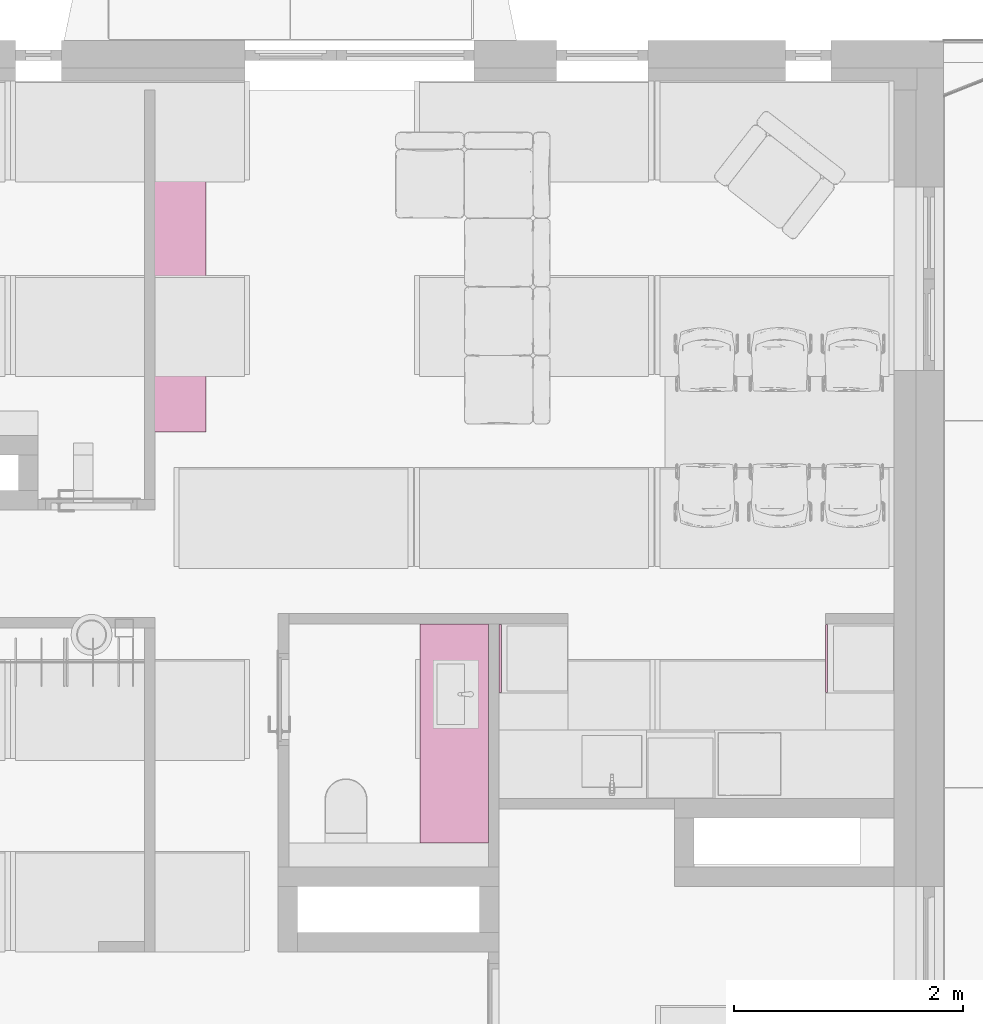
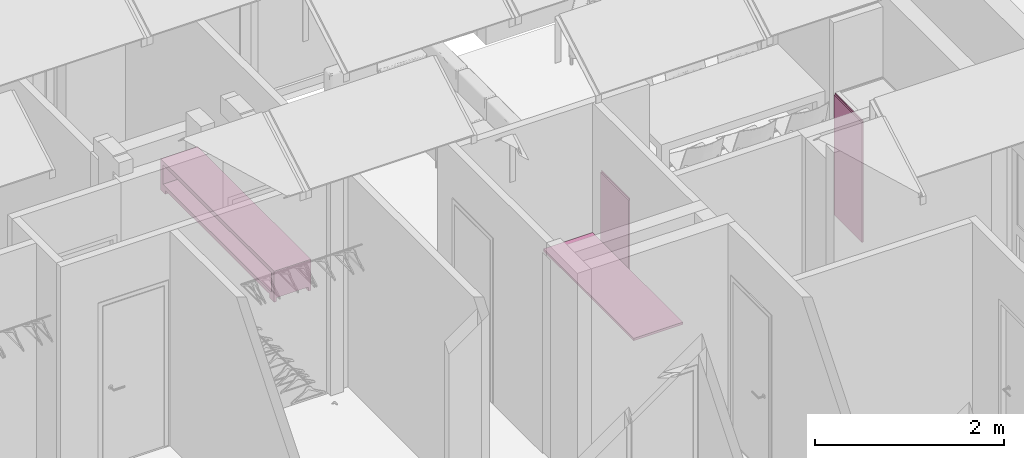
# One storey, part 35 of 57: 4 furnishings.
"""IFC2X3 building model written with IfcOpenShell, lengths in millimetres."""

from ifc_helpers import new_model, entity, si_unit, converted_unit, direction, frame, frame_2d, origin, origin_2d_with_axis, place, context, subcontext, project, spatial, polyline, rectangle, outline, extrude, source, transform, mapped, material, type_object, type_shapes, element, save


model = new_model("IFC2X3")

# Units and contexts
model_context = context("Model", 3, precision=0.01, world=origin(), true_north=direction((6.123233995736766e-17, 1.0)))
plan_context = context("Plan", 3, precision=0.01, world=origin(), true_north=direction((6.123233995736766e-17, 1.0)))
body_context = subcontext(model_context, "Body", "Model", "MODEL_VIEW")
ifc_project = project(units=[si_unit("LENGTHUNIT", "METRE", prefix="MILLI"), converted_unit("PLANEANGLEUNIT", "DEGREE", entity("IfcPlaneAngleMeasure", 0.017453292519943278), si_unit("PLANEANGLEUNIT", "RADIAN"), dimensions=[0, 0, 0, 0, 0, 0, 0]), si_unit("AREAUNIT", "SQUARE_METRE")], contexts=[model_context, plan_context])

# Site, building, storey
site_placement = place(None, origin())
site = spatial("IfcSite", under=ifc_project, at=site_placement, Name="Default", CompositionType="ELEMENT")
building_placement = place(site_placement, origin())
building = spatial("IfcBuilding", under=site, at=building_placement, CompositionType="ELEMENT")
storey_placement = place(building_placement, frame((0.0, 0.0, 12811.000000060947)))
storey = spatial("IfcBuildingStorey", under=building, at=storey_placement, Name="5K", CompositionType="ELEMENT", Elevation=12811.000000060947)

# Furnishing
ifc_material = material(Name="<Unnamed>")
furniture_type_1 = type_object("IfcFurnitureType", Name="HR_Furniture_TV-stand_Generic_v2016-05-13:Default", AssemblyPlace="NOTDEFINED", material=ifc_material)
shared_shape_1 = source(origin(), body_context, "Body", "SweptSolid", [
    extrude(rectangle(XDim=99.99999999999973, YDim=29.999999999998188, at=origin_2d_with_axis()), frame((1150.0, 15.0, 0.0), z_axis=(0.0, 0.0, 1.0), x_axis=(-1.0, 0.0, 0.0)), (0.0, 0.0, 1.0), 49.99999999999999),
    extrude(rectangle(XDim=30.000000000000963, YDim=99.99999999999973, at=frame_2d((-3.375077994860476e-14, 0.0), x_axis=(1.0, 0.0))), frame((1150.0, 435.0, 0.0), z_axis=(0.0, 0.0, 1.0), x_axis=(0.0, 1.0, 0.0)), (0.0, 0.0, 1.0), 49.99999999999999),
    extrude(rectangle(XDim=30.000000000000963, YDim=99.99999999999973, at=frame_2d((-3.375077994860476e-14, 0.0), x_axis=(1.0, 0.0))), frame((-1150.0, 435.0, 0.0), z_axis=(0.0, 0.0, 1.0), x_axis=(0.0, 1.0, 0.0)), (0.0, 0.0, 1.0), 49.99999999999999),
    extrude(rectangle(XDim=99.99999999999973, YDim=29.999999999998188, at=origin_2d_with_axis()), frame((-1150.0, 15.0, 0.0), z_axis=(0.0, 0.0, 1.0), x_axis=(-1.0, 0.0, 0.0)), (0.0, 0.0, 1.0), 49.99999999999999),
    extrude(outline(polyline([(-175.0, -1200.0), (175.0, -1200.0), (175.0, 1200.0), (-175.0, 1200.0), (-175.0, -1200.0)]), holes=[polyline([(-125.0, -1150.0), (-125.0, 1150.0), (125.0, 1150.0), (125.0, -1150.0), (-125.0, -1150.0)])]), frame((0.0, 0.0, 225.0), z_axis=(0.0, 1.0, 0.0), x_axis=(0.0, 0.0, -1.0)), (0.0, 0.0, 1.0), 449.9999999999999),
])
type_shapes(furniture_type_1, [shared_shape_1])
furnishing_1_placement = place(storey_placement, frame((5440.27808156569, 13612.220794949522, 0.0), z_axis=(0.0, 0.0, 1.0), x_axis=(0.0, -1.0, 0.0)))
element("IfcFurnishingElement", 1, at=furnishing_1_placement, inside=storey, type_object=furniture_type_1, material=ifc_material, Name="HR_Furniture_TV-stand_Generic_v2016-05-13:Default", ObjectType="HR_Furniture_TV-stand_Generic_v2016-05-13:Default", context=body_context, shape_type="MappedRepresentation", body=[
    mapped(shared_shape_1, transform((0.0, 0.0, 0.0), scale=1.0)),
])

# Space
space_1_placement = place(storey_placement, origin())
space_1 = spatial("IfcSpace", under=storey, at=space_1_placement, Name="5-12.4", CompositionType="ELEMENT", InteriorOrExteriorSpace="INTERNAL")

# Furnishings
furniture_type_2 = type_object("IfcFurnitureType", Name="HR_Casework-components_Front-panel_Generic_v1_1x:Default", AssemblyPlace="NOTDEFINED", material=ifc_material)
shared_shape_2 = source(origin(), body_context, "Body", "SweptSolid", [
    extrude(outline(polyline([(-7.0, -9.500000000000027), (15.0, -9.500000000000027), (15.0, -8.499999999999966), (-6.0, -8.499999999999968), (-6.0, 8.499999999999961), (-2.0, 8.499999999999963), (-2.0, 9.500000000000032), (-7.0, 9.500000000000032), (-7.0, -9.500000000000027)])), frame((-297.0, 767.0, 9.499999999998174), z_axis=(1.0, 0.0, 0.0), x_axis=(0.0, 1.0, 0.0)), (0.0, 0.0, 1.0), 593.9999999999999),
    extrude(rectangle(XDim=593.9999999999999, YDim=1545.0000000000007, at=origin_2d_with_axis()), frame((0.0, -12.500000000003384, 0.0), z_axis=(0.0, 0.0, 1.0), x_axis=(-1.0, 0.0, 0.0)), (0.0, 0.0, 1.0), 19.00000000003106),
])
type_shapes(furniture_type_2, [shared_shape_2])
for number, where, z_axis, x_axis in (
    (2, (8469.0, 10433.0, 885.0), (-1.0, 0.0, 0.0), (0.0, -1.0, 0.0)),
    (3, (11319.0, 10433.0, 885.0), (-1.0, 0.0, 0.0), (0.0, -1.0, 0.0)),
):
    element("IfcFurnishingElement", number, at=place(space_1_placement, frame(where, z_axis=z_axis, x_axis=x_axis)), inside=space_1, type_object=furniture_type_2, material=ifc_material, Name="HR_Casework-components_Front-panel_Generic_v1_1x:Default", ObjectType="HR_Casework-components_Front-panel_Generic_v1_1x:Default", context=body_context, shape_type="MappedRepresentation", body=[
        mapped(shared_shape_2, transform((0.0, 0.0, 0.0), scale=1.0)),
    ])

# Space
space_2_placement = place(storey_placement, origin())
space_2 = spatial("IfcSpace", under=storey, at=space_2_placement, Name="5-12.5", CompositionType="ELEMENT", InteriorOrExteriorSpace="INTERNAL")

# Furnishing
furniture_type_3 = type_object("IfcFurnitureType", Name="HR_Casework_Work-surface_Generic_Rectangular_v1:Default", AssemblyPlace="NOTDEFINED", material=ifc_material)
shared_shape_3 = source(origin(), body_context, "Body", "SweptSolid", [
    extrude(rectangle(XDim=1909.999999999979, YDim=600.0, at=frame_2d((9.094947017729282e-13, 0.0), x_axis=(1.0, 0.0))), frame((0.0, 300.0, -11941.000000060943)), (0.0, 0.0, 1.0), 29.999999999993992),
])
type_shapes(furniture_type_3, [shared_shape_3])
furnishing_2_placement = place(space_2_placement, frame((8358.0, 9778.0, 12811.000000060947), z_axis=(0.0, 0.0, 1.0), x_axis=(0.0, 1.0, 0.0)))
element("IfcFurnishingElement", 4, at=furnishing_2_placement, inside=space_2, type_object=furniture_type_3, material=ifc_material, Name="HR_Casework_Work-surface_Generic_Rectangular_v1:Default", ObjectType="HR_Casework_Work-surface_Generic_Rectangular_v1:Default", context=body_context, shape_type="MappedRepresentation", body=[
    mapped(shared_shape_3, transform((0.0, 0.0, 0.0), scale=1.0)),
])

save(model, "model.ifc")
